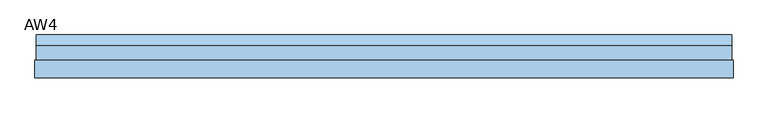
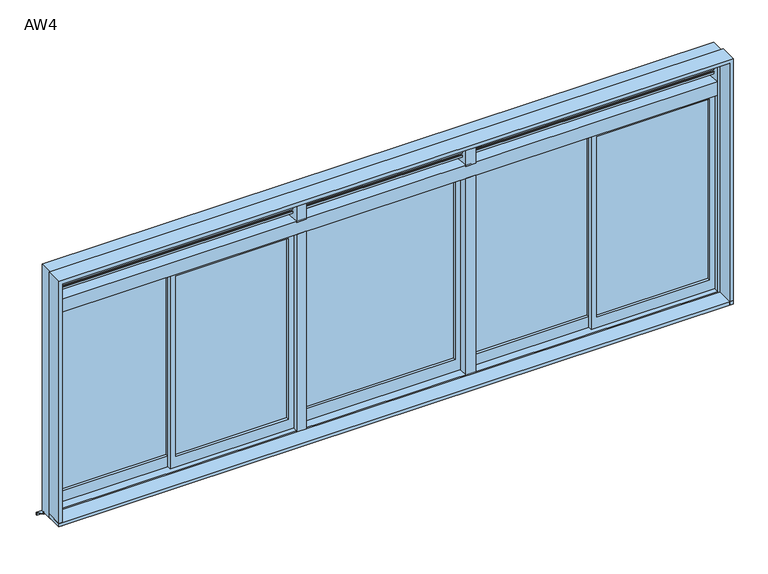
"""IFC4 building model written with IfcOpenShell, lengths in millimetres: window geometry, 営_連段窓_引違い+FIX/ガラリ : AW4."""

from ifc_helpers import new_model, si_unit, frame, origin, place, context, project, spatial, polyline, outline, extrude, source, transform, mapped, element, save


def aw4_ca96b354(model_context):
    return source(origin(), model_context, "Body", "SweptSolid", [
        extrude(outline(polyline([(20.0, 2823.2493654), (20.0, 2805.0), (15.0, 2805.0), (15.0, 2820.0), (-30.0, 2840.0), (-30.0, 2855.0), (-25.0, 2855.0), (-25.0, 2843.2493654), (20.0, 2823.2493654)])), frame((640.0, 0.0, 0.0), z_axis=(1.0, 0.0, 0.0), x_axis=(0.0, 1.0, 0.0)), (0.0, 0.0, 1.0), 1730.0),
        extrude(outline(polyline([(20.0, 2793.2493654), (20.0, 2775.0), (15.0, 2775.0), (15.0, 2790.0), (-30.0, 2810.0), (-30.0, 2825.0), (-25.0, 2825.0), (-25.0, 2813.2493654), (20.0, 2793.2493654)])), frame((640.0, 0.0, 0.0), z_axis=(1.0, 0.0, 0.0), x_axis=(0.0, 1.0, 0.0)), (0.0, 0.0, 1.0), 1730.0),
        extrude(outline(polyline([(20.0, 2763.2493654), (20.0, 2745.0), (15.0, 2745.0), (15.0, 2760.0), (-30.0, 2780.0), (-30.0, 2795.0), (-25.0, 2795.0), (-25.0, 2783.2493654), (20.0, 2763.2493654)])), frame((640.0, 0.0, 0.0), z_axis=(1.0, 0.0, 0.0), x_axis=(0.0, 1.0, 0.0)), (0.0, 0.0, 1.0), 1730.0),
        extrude(outline(polyline([(20.0, 2733.2493654), (20.0, 2715.0), (15.0, 2715.0), (15.0, 2730.0), (-30.0, 2750.0), (-30.0, 2765.0), (-25.0, 2765.0), (-25.0, 2753.2493654), (20.0, 2733.2493654)])), frame((640.0, 0.0, 0.0), z_axis=(1.0, 0.0, 0.0), x_axis=(0.0, 1.0, 0.0)), (0.0, 0.0, 1.0), 1730.0),
        extrude(outline(polyline([(20.0, 2853.2493654), (20.0, 2835.0), (15.0, 2835.0), (15.0, 2850.0), (-30.0, 2870.0), (-30.0, 2885.0), (-25.0, 2885.0), (-25.0, 2873.2493654), (20.0, 2853.2493654)])), frame((640.0, 0.0, 0.0), z_axis=(1.0, 0.0, 0.0), x_axis=(0.0, 1.0, 0.0)), (0.0, 0.0, 1.0), 1730.0),
        extrude(outline(polyline([(20.0, 2703.2493654), (20.0, 2685.0), (15.0, 2685.0), (15.0, 2700.0), (-30.0, 2720.0), (-30.0, 2735.0), (-25.0, 2735.0), (-25.0, 2723.2493654), (20.0, 2703.2493654)])), frame((640.0, 0.0, 0.0), z_axis=(1.0, 0.0, 0.0), x_axis=(0.0, 1.0, 0.0)), (0.0, 0.0, 1.0), 1730.0),
        extrude(outline(polyline([(20.0, 2823.2493654), (20.0, 2805.0), (15.0, 2805.0), (15.0, 2820.0), (-30.0, 2840.0), (-30.0, 2855.0), (-25.0, 2855.0), (-25.0, 2843.2493654), (20.0, 2823.2493654)])), frame((-570.0, 0.0, 0.0), z_axis=(1.0, 0.0, 0.0), x_axis=(0.0, 1.0, 0.0)), (0.0, 0.0, 1.0), 1140.0),
        extrude(outline(polyline([(20.0, 2793.2493654), (20.0, 2775.0), (15.0, 2775.0), (15.0, 2790.0), (-30.0, 2810.0), (-30.0, 2825.0), (-25.0, 2825.0), (-25.0, 2813.2493654), (20.0, 2793.2493654)])), frame((-570.0, 0.0, 0.0), z_axis=(1.0, 0.0, 0.0), x_axis=(0.0, 1.0, 0.0)), (0.0, 0.0, 1.0), 1140.0),
        extrude(outline(polyline([(20.0, 2763.2493654), (20.0, 2745.0), (15.0, 2745.0), (15.0, 2760.0), (-30.0, 2780.0), (-30.0, 2795.0), (-25.0, 2795.0), (-25.0, 2783.2493654), (20.0, 2763.2493654)])), frame((-570.0, 0.0, 0.0), z_axis=(1.0, 0.0, 0.0), x_axis=(0.0, 1.0, 0.0)), (0.0, 0.0, 1.0), 1140.0),
        extrude(outline(polyline([(20.0, 2733.2493654), (20.0, 2715.0), (15.0, 2715.0), (15.0, 2730.0), (-30.0, 2750.0), (-30.0, 2765.0), (-25.0, 2765.0), (-25.0, 2753.2493654), (20.0, 2733.2493654)])), frame((-570.0, 0.0, 0.0), z_axis=(1.0, 0.0, 0.0), x_axis=(0.0, 1.0, 0.0)), (0.0, 0.0, 1.0), 1140.0),
        extrude(outline(polyline([(20.0, 2853.2493654), (20.0, 2835.0), (15.0, 2835.0), (15.0, 2850.0), (-30.0, 2870.0), (-30.0, 2885.0), (-25.0, 2885.0), (-25.0, 2873.2493654), (20.0, 2853.2493654)])), frame((-570.0, 0.0, 0.0), z_axis=(1.0, 0.0, 0.0), x_axis=(0.0, 1.0, 0.0)), (0.0, 0.0, 1.0), 1140.0),
        extrude(outline(polyline([(20.0, 2703.2493654), (20.0, 2685.0), (15.0, 2685.0), (15.0, 2700.0), (-30.0, 2720.0), (-30.0, 2735.0), (-25.0, 2735.0), (-25.0, 2723.2493654), (20.0, 2703.2493654)])), frame((-570.0, 0.0, 0.0), z_axis=(1.0, 0.0, 0.0), x_axis=(0.0, 1.0, 0.0)), (0.0, 0.0, 1.0), 1140.0),
        extrude(outline(polyline([(20.0, 2823.2493654), (20.0, 2805.0), (15.0, 2805.0), (15.0, 2820.0), (-30.0, 2840.0), (-30.0, 2855.0), (-25.0, 2855.0), (-25.0, 2843.2493654), (20.0, 2823.2493654)])), frame((-2370.0, 0.0, 0.0), z_axis=(1.0, 0.0, 0.0), x_axis=(0.0, 1.0, 0.0)), (0.0, 0.0, 1.0), 1730.0),
        extrude(outline(polyline([(20.0, 2793.2493654), (20.0, 2775.0), (15.0, 2775.0), (15.0, 2790.0), (-30.0, 2810.0), (-30.0, 2825.0), (-25.0, 2825.0), (-25.0, 2813.2493654), (20.0, 2793.2493654)])), frame((-2370.0, 0.0, 0.0), z_axis=(1.0, 0.0, 0.0), x_axis=(0.0, 1.0, 0.0)), (0.0, 0.0, 1.0), 1730.0),
        extrude(outline(polyline([(20.0, 2763.2493654), (20.0, 2745.0), (15.0, 2745.0), (15.0, 2760.0), (-30.0, 2780.0), (-30.0, 2795.0), (-25.0, 2795.0), (-25.0, 2783.2493654), (20.0, 2763.2493654)])), frame((-2370.0, 0.0, 0.0), z_axis=(1.0, 0.0, 0.0), x_axis=(0.0, 1.0, 0.0)), (0.0, 0.0, 1.0), 1730.0),
        extrude(outline(polyline([(20.0, 2733.2493654), (20.0, 2715.0), (15.0, 2715.0), (15.0, 2730.0), (-30.0, 2750.0), (-30.0, 2765.0), (-25.0, 2765.0), (-25.0, 2753.2493654), (20.0, 2733.2493654)])), frame((-2370.0, 0.0, 0.0), z_axis=(1.0, 0.0, 0.0), x_axis=(0.0, 1.0, 0.0)), (0.0, 0.0, 1.0), 1730.0),
        extrude(outline(polyline([(20.0, 2853.2493654), (20.0, 2835.0), (15.0, 2835.0), (15.0, 2850.0), (-30.0, 2870.0), (-30.0, 2885.0), (-25.0, 2885.0), (-25.0, 2873.2493654), (20.0, 2853.2493654)])), frame((-2370.0, 0.0, 0.0), z_axis=(1.0, 0.0, 0.0), x_axis=(0.0, 1.0, 0.0)), (0.0, 0.0, 1.0), 1730.0),
        extrude(outline(polyline([(20.0, 2703.2493654), (20.0, 2685.0), (15.0, 2685.0), (15.0, 2700.0), (-30.0, 2720.0), (-30.0, 2735.0), (-25.0, 2735.0), (-25.0, 2723.2493654), (20.0, 2703.2493654)])), frame((-2370.0, 0.0, 0.0), z_axis=(1.0, 0.0, 0.0), x_axis=(0.0, 1.0, 0.0)), (0.0, 0.0, 1.0), 1730.0),
        extrude(outline(polyline([(2330.0, -20.0), (1525.0, -20.0), (1525.0, -15.0), (2330.0, -15.0), (2330.0, -20.0)])), frame((0.0, 0.0, 1180.0), z_axis=(0.0, 0.0, 1.0), x_axis=(1.0, 0.0, 0.0)), (0.0, 0.0, 1.0), 1365.0),
        extrude(outline(polyline([(1485.0, 10.0), (680.0, 10.0), (680.0, 15.0), (1485.0, 15.0), (1485.0, 10.0)])), frame((0.0, 0.0, 1180.0), z_axis=(0.0, 0.0, 1.0), x_axis=(1.0, 0.0, 0.0)), (0.0, 0.0, 1.0), 1365.0),
        extrude(outline(polyline([(1100.0, 2370.0), (2585.0, 2370.0), (2585.0, 1485.0), (1100.0, 1485.0), (1100.0, 2370.0)]), holes=[polyline([(1180.0, 2330.0), (1180.0, 1525.0), (2545.0, 1525.0), (2545.0, 2330.0), (1180.0, 2330.0)])]), frame((0.0, -40.0, 0.0), z_axis=(0.0, 1.0, 0.0), x_axis=(0.0, 0.0, 1.0)), (0.0, 0.0, 1.0), 30.0),
        extrude(outline(polyline([(1100.0, 1525.0), (2585.0, 1525.0), (2585.0, 640.0), (1100.0, 640.0), (1100.0, 1525.0)]), holes=[polyline([(1180.0, 1485.0), (1180.0, 680.0), (2545.0, 680.0), (2545.0, 1485.0), (1180.0, 1485.0)])]), frame((0.0, -10.0, 0.0), z_axis=(0.0, 1.0, 0.0), x_axis=(0.0, 0.0, 1.0)), (0.0, 0.0, 1.0), 30.0),
        extrude(outline(polyline([(530.0, 10.0), (-530.0, 10.0), (-530.0, 15.0), (530.0, 15.0), (530.0, 10.0)])), frame((0.0, 0.0, 1190.0), z_axis=(0.0, 0.0, 1.0), x_axis=(1.0, 0.0, 0.0)), (0.0, 0.0, 1.0), 1355.0),
        extrude(outline(polyline([(1100.0, 570.0), (2585.0, 570.0), (2585.0, -570.0), (1100.0, -570.0), (1100.0, 570.0)]), holes=[polyline([(1190.0, 530.0), (1190.0, -530.0), (2545.0, -530.0), (2545.0, 530.0), (1190.0, 530.0)])]), frame((0.0, -10.0, 0.0), z_axis=(0.0, 1.0, 0.0), x_axis=(0.0, 0.0, 1.0)), (0.0, 0.0, 1.0), 30.0),
        extrude(outline(polyline([(-680.0, -20.0), (-1485.0, -20.0), (-1485.0, -15.0), (-680.0, -15.0), (-680.0, -20.0)])), frame((0.0, 0.0, 1180.0), z_axis=(0.0, 0.0, 1.0), x_axis=(1.0, 0.0, 0.0)), (0.0, 0.0, 1.0), 1365.0),
        extrude(outline(polyline([(-1525.0, 10.0), (-2330.0, 10.0), (-2330.0, 15.0), (-1525.0, 15.0), (-1525.0, 10.0)])), frame((0.0, 0.0, 1180.0), z_axis=(0.0, 0.0, 1.0), x_axis=(1.0, 0.0, 0.0)), (0.0, 0.0, 1.0), 1365.0),
        extrude(outline(polyline([(1100.0, -640.0), (2585.0, -640.0), (2585.0, -1525.0), (1100.0, -1525.0), (1100.0, -640.0)]), holes=[polyline([(1180.0, -680.0), (1180.0, -1485.0), (2545.0, -1485.0), (2545.0, -680.0), (1180.0, -680.0)])]), frame((0.0, -40.0, 0.0), z_axis=(0.0, 1.0, 0.0), x_axis=(0.0, 0.0, 1.0)), (0.0, 0.0, 1.0), 30.0),
        extrude(outline(polyline([(1100.0, -1485.0), (2585.0, -1485.0), (2585.0, -2370.0), (1100.0, -2370.0), (1100.0, -1485.0)]), holes=[polyline([(1180.0, -1525.0), (1180.0, -2330.0), (2545.0, -2330.0), (2545.0, -1525.0), (1180.0, -1525.0)])]), frame((0.0, -10.0, 0.0), z_axis=(0.0, 1.0, 0.0), x_axis=(0.0, 0.0, 1.0)), (0.0, 0.0, 1.0), 30.0),
        extrude(outline(polyline([(640.0, -75.0), (570.0, -75.0), (570.0, 25.0), (640.0, 25.0), (640.0, -75.0)])), frame((0.0, 0.0, 2675.0), z_axis=(0.0, 0.0, 1.0), x_axis=(1.0, 0.0, 0.0)), (0.0, 0.0, 1.0), 210.0),
        extrude(outline(polyline([(-570.0, -75.0), (-640.0, -75.0), (-640.0, 25.0), (-570.0, 25.0), (-570.0, -75.0)])), frame((0.0, 0.0, 2675.0), z_axis=(0.0, 0.0, 1.0), x_axis=(1.0, 0.0, 0.0)), (0.0, 0.0, 1.0), 210.0),
        extrude(outline(polyline([(-570.0, -75.0), (-640.0, -75.0), (-640.0, 25.0), (-570.0, 25.0), (-570.0, -75.0)])), frame((0.0, 0.0, 1090.0), z_axis=(0.0, 0.0, 1.0), x_axis=(1.0, 0.0, 0.0)), (0.0, 0.0, 1.0), 1495.0),
        extrude(outline(polyline([(640.0, -75.0), (570.0, -75.0), (570.0, 25.0), (640.0, 25.0), (640.0, -75.0)])), frame((0.0, 0.0, 1090.0), z_axis=(0.0, 0.0, 1.0), x_axis=(1.0, 0.0, 0.0)), (0.0, 0.0, 1.0), 1495.0),
        extrude(outline(polyline([(2410.0, -195.0), (-2410.0, -195.0), (-2410.0, -75.0), (2410.0, -75.0), (2410.0, -195.0)])), frame((0.0, 0.0, 1065.0), z_axis=(0.0, 0.0, 1.0), x_axis=(1.0, 0.0, 0.0)), (0.0, 0.0, 1.0), 25.0),
        extrude(outline(polyline([(15.0, 1035.0), (100.0, 995.0), (100.0, 975.0), (95.0014518, 975.0), (95.0014518, 991.8262891), (10.0, 1031.8269723), (10.0, 1050.0), (15.0, 1050.0), (15.0, 1035.0)])), frame((-2400.0, 0.0, 0.0), z_axis=(1.0, 0.0, 0.0), x_axis=(0.0, 1.0, 0.0)), (0.0, 0.0, 1.0), 4800.0),
        extrude(outline(polyline([(1065.0, -2410.0), (1065.0, -2385.0), (2895.0, -2385.0), (2895.0, 2385.0), (1065.0, 2385.0), (1065.0, 2410.0), (2920.0, 2410.0), (2920.0, -2410.0), (1065.0, -2410.0)])), frame((0.0, -195.0, 0.0), z_axis=(0.0, 1.0, 0.0), x_axis=(0.0, 0.0, 1.0)), (0.0, 0.0, 1.0), 120.0),
        extrude(outline(polyline([(1050.0, -2400.0), (1050.0, -2370.0), (2885.0, -2370.0), (2885.0, 2370.0), (1050.0, 2370.0), (1050.0, 2400.0), (2915.0, 2400.0), (2915.0, -2400.0), (1050.0, -2400.0)])), frame((0.0, -75.0, 0.0), z_axis=(0.0, 1.0, 0.0), x_axis=(0.0, 0.0, 1.0)), (0.0, 0.0, 1.0), 100.0),
        extrude(outline(polyline([(-75.0, 1050.0), (-75.0, 1100.0), (25.0, 1090.6666667), (25.0, 1050.0), (-75.0, 1050.0)])), frame((-2370.0, 0.0, 0.0), z_axis=(1.0, 0.0, 0.0), x_axis=(0.0, 1.0, 0.0)), (0.0, 0.0, 1.0), 4740.0),
        extrude(outline(polyline([(25.0, 2585.0), (-75.0, 2585.0), (-75.0, 2685.0), (25.0, 2675.0), (25.0, 2585.0)])), frame((-2370.0, 0.0, 0.0), z_axis=(1.0, 0.0, 0.0), x_axis=(0.0, 1.0, 0.0)), (0.0, 0.0, 1.0), 4740.0),
    ])


if __name__ == "__main__":
    model = new_model("IFC4")
    model_context = context("Model", 3, world=origin())
    ifc_project = project(units=[si_unit("LENGTHUNIT", "METRE", prefix="MILLI")], contexts=[model_context])
    site = spatial("IfcSite", under=ifc_project)
    building = spatial("IfcBuilding", under=site)
    placement = place(None, origin())
    aw4_shape = aw4_ca96b354(model_context)
    element("IfcWindow", 1, ObjectType="営_連段窓_引違い+FIX/ガラリ : AW4", at=placement, inside=building, context=model_context, shape_type="MappedRepresentation", body=[
        mapped(aw4_shape, transform((0.0, 0.0, 0.0), x_axis=(1.0, 0.0, 0.0), y_axis=(0.0, 1.0, 0.0), z_axis=(0.0, 0.0, 1.0))),
    ])
    save(model, "model.ifc")
